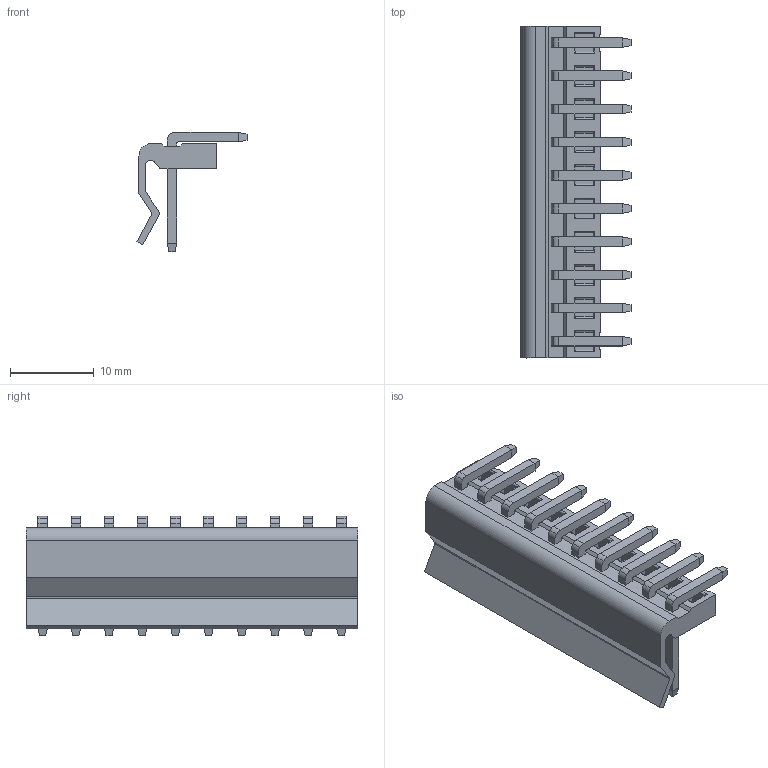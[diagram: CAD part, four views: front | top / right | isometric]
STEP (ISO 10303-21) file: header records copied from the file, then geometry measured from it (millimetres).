
FILE_DESCRIPTION (( 'STEP AP203' ), '1' );
FILE_NAME ('HC-3.96-10A10W（3.96 弯针-HCTL）.STEP', '2024-07-30T06:17:34', ( '' ), ( '' ), 'SwSTEP 2.0', 'SolidWorks 2022', '' );
FILE_SCHEMA (( 'CONFIG_CONTROL_DESIGN' ));
Length unit declared in the file: millimetre
Products named in the file (1): HC-3.96-10A10W（3.96 弯针-HCTL）
Bounding box: 13.13 x 39.6 x 14.22 mm (x, y, z)
Volume: 1456 mm3; surface area: 2930.2 mm2
Topology: 1 solids, 1 shells, 361 faces, 867 edges, 538 vertices
Faces by surface type: plane 276, cylinder 85
Entity records: 10268 total; most frequent: CARTESIAN_POINT 1887, ORIENTED_EDGE 1734, DIRECTION 1641, EDGE_CURVE 867, LINE 737, VECTOR 737, VERTEX_POINT 538, AXIS2_PLACEMENT_3D 452
